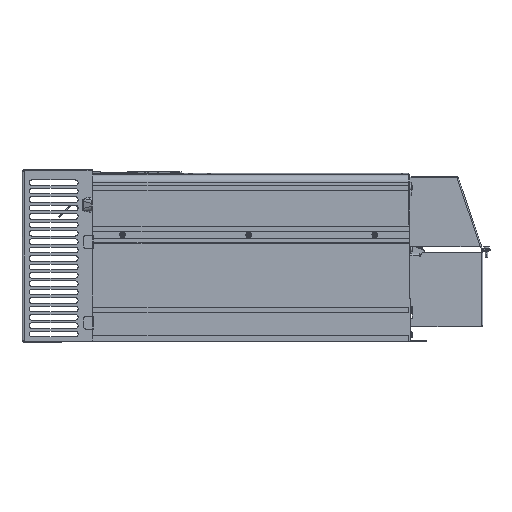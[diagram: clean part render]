
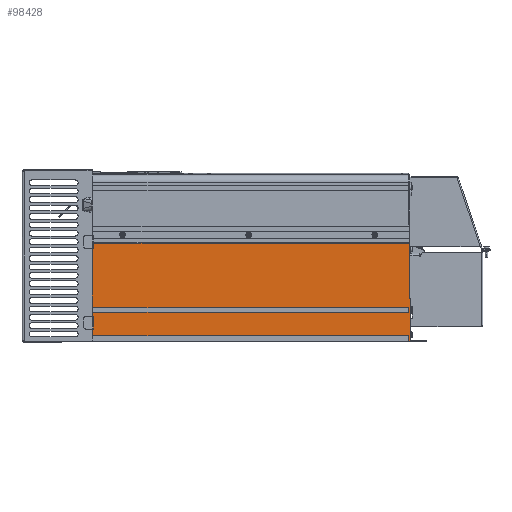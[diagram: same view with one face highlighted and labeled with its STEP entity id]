
A CAD part, left-side view. The second image highlights one B-rep face of the part: STEP entity #98428.
In plain terms, the highlighted planar face has unit normal (-1, 0, 0).
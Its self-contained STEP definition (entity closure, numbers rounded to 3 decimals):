
#6630=DIRECTION('',(0.,-1.,0.));
#6631=VECTOR('',#6630,1.);
#6632=CARTESIAN_POINT('',(-115.,-229.45,62.5));
#6633=LINE('',#6632,#6631);
#6634=DIRECTION('',(0.,0.,-1.));
#6635=VECTOR('',#6634,60.);
#6636=CARTESIAN_POINT('',(-115.,-230.45,62.5));
#6637=LINE('',#6636,#6635);
#6638=DIRECTION('',(0.,-1.,0.));
#6639=VECTOR('',#6638,17.8);
#6640=CARTESIAN_POINT('',(-115.,-230.45,2.5));
#6641=LINE('',#6640,#6639);
#6642=DIRECTION('',(0.,0.,1.));
#6643=VECTOR('',#6642,2.5);
#6644=CARTESIAN_POINT('',(-115.,-248.25,0.));
#6645=LINE('',#6644,#6643);
#6646=DIRECTION('',(0.,0.,1.));
#6647=VECTOR('',#6646,1.);
#6648=CARTESIAN_POINT('',(-115.,211.75,0.));
#6649=LINE('',#6648,#6647);
#6650=DIRECTION('',(0.,1.,0.));
#6651=VECTOR('',#6650,12.);
#6652=CARTESIAN_POINT('',(-115.,211.75,1.));
#6653=LINE('',#6652,#6651);
#6654=DIRECTION('',(0.,0.,1.));
#6655=VECTOR('',#6654,1.);
#6656=CARTESIAN_POINT('',(-115.,223.75,0.));
#6657=LINE('',#6656,#6655);
#6658=DIRECTION('',(0.,-1.,0.));
#6659=VECTOR('',#6658,451.7);
#6660=CARTESIAN_POINT('',(-115.,223.75,1.1));
#6661=LINE('',#6660,#6659);
#6662=DIRECTION('',(0.,-1.,0.));
#6663=VECTOR('',#6662,451.7);
#6664=CARTESIAN_POINT('',(-115.,223.75,9.1));
#6665=LINE('',#6664,#6663);
#6666=DIRECTION('',(0.,0.,-1.));
#6667=VECTOR('',#6666,12.4);
#6668=CARTESIAN_POINT('',(-115.,223.75,21.5));
#6669=LINE('',#6668,#6667);
#6670=DIRECTION('',(0.,0.,-1.));
#6671=VECTOR('',#6670,8.6);
#6672=CARTESIAN_POINT('',(-115.,223.75,42.1));
#6673=LINE('',#6672,#6671);
#6674=DIRECTION('',(0.,-1.,0.));
#6675=VECTOR('',#6674,451.7);
#6676=CARTESIAN_POINT('',(-115.,223.75,42.1));
#6677=LINE('',#6676,#6675);
#6678=DIRECTION('',(0.,-1.,0.));
#6679=VECTOR('',#6678,451.7);
#6680=CARTESIAN_POINT('',(-115.,223.75,48.7));
#6681=LINE('',#6680,#6679);
#6682=DIRECTION('',(0.,0.,-1.));
#6683=VECTOR('',#6682,87.8);
#6684=CARTESIAN_POINT('',(-115.,223.75,136.5));
#6685=LINE('',#6684,#6683);
#7469=DIRECTION('',(0.,0.,-1.));
#7470=VECTOR('',#7469,12.);
#7471=CARTESIAN_POINT('',(-115.,223.75,33.5));
#7472=LINE('',#7471,#7470);
#7869=DIRECTION('',(0.,0.,1.));
#7870=VECTOR('',#7869,1.4);
#7871=CARTESIAN_POINT('',(-115.,223.75,1.1));
#7872=LINE('',#7871,#7870);
#7971=DIRECTION('',(0.,0.,-1.));
#7972=VECTOR('',#7971,4.6);
#7973=CARTESIAN_POINT('',(-115.,223.75,141.1));
#7974=LINE('',#7973,#7972);
#14273=DIRECTION('',(0.,0.,1.));
#14274=VECTOR('',#14273,8.);
#14275=CARTESIAN_POINT('',(-115.,-227.95,1.1));
#14276=LINE('',#14275,#14274);
#14297=DIRECTION('',(0.,0.,1.));
#14298=VECTOR('',#14297,6.6);
#14299=CARTESIAN_POINT('',(-115.,-227.95,42.1));
#14300=LINE('',#14299,#14298);
#16549=DIRECTION('',(0.,0.,-1.));
#16550=VECTOR('',#16549,78.6);
#16551=CARTESIAN_POINT('',(-115.,-229.45,141.1));
#16552=LINE('',#16551,#16550);
#38522=DIRECTION('',(0.,1.,0.));
#38523=VECTOR('',#38522,33.);
#38524=CARTESIAN_POINT('',(-115.,226.75,2.5));
#38525=LINE('',#38524,#38523);
#38866=DIRECTION('',(0.,1.,0.));
#38867=VECTOR('',#38866,453.2);
#38868=CARTESIAN_POINT('',(-115.,-229.45,141.1));
#38869=LINE('',#38868,#38867);
#39154=DIRECTION('',(0.,1.,0.));
#39155=VECTOR('',#39154,3.);
#39156=CARTESIAN_POINT('',(-115.,223.75,2.5));
#39157=LINE('',#39156,#39155);
#60087=DIRECTION('',(0.,0.,1.));
#60088=VECTOR('',#60087,2.5);
#60089=CARTESIAN_POINT('',(-115.,259.75,0.));
#60090=LINE('',#60089,#60088);
#60147=DIRECTION('',(0.,-1.,0.));
#60148=VECTOR('',#60147,36.);
#60149=CARTESIAN_POINT('',(-115.,259.75,0.));
#60150=LINE('',#60149,#60148);
#60191=DIRECTION('',(0.,-1.,0.));
#60192=VECTOR('',#60191,460.);
#60193=CARTESIAN_POINT('',(-115.,211.75,0.));
#60194=LINE('',#60193,#60192);
#77143=CARTESIAN_POINT('',(-115.,223.75,136.5));
#77144=VERTEX_POINT('',#77143);
#77215=CARTESIAN_POINT('',(-115.,223.75,21.5));
#77217=VERTEX_POINT('',#77215);
#77219=CARTESIAN_POINT('',(-115.,223.75,33.5));
#77221=VERTEX_POINT('',#77219);
#78902=CARTESIAN_POINT('',(-115.,223.75,9.1));
#78903=VERTEX_POINT('',#78902);
#78908=CARTESIAN_POINT('',(-115.,223.75,141.1));
#78909=VERTEX_POINT('',#78908);
#78958=CARTESIAN_POINT('',(-115.,259.75,0.));
#78960=VERTEX_POINT('',#78958);
#78968=CARTESIAN_POINT('',(-115.,259.75,2.5));
#78970=VERTEX_POINT('',#78968);
#78976=CARTESIAN_POINT('',(-115.,226.75,2.5));
#78977=VERTEX_POINT('',#78976);
#78982=CARTESIAN_POINT('',(-115.,223.75,1.1));
#78983=CARTESIAN_POINT('',(-115.,223.75,2.5));
#78984=VERTEX_POINT('',#78982);
#78985=VERTEX_POINT('',#78983);
#79014=CARTESIAN_POINT('',(-115.,-227.95,1.1));
#79015=CARTESIAN_POINT('',(-115.,-227.95,9.1));
#79016=VERTEX_POINT('',#79014);
#79017=VERTEX_POINT('',#79015);
#79054=CARTESIAN_POINT('',(-115.,-248.25,2.5));
#79056=VERTEX_POINT('',#79054);
#79060=CARTESIAN_POINT('',(-115.,-248.25,0.));
#79061=VERTEX_POINT('',#79060);
#79070=CARTESIAN_POINT('',(-115.,-230.45,2.5));
#79071=VERTEX_POINT('',#79070);
#79118=CARTESIAN_POINT('',(-115.,-230.45,62.5));
#79119=VERTEX_POINT('',#79118);
#80316=CARTESIAN_POINT('',(-115.,223.75,48.7));
#80317=VERTEX_POINT('',#80316);
#80322=CARTESIAN_POINT('',(-115.,223.75,42.1));
#80323=VERTEX_POINT('',#80322);
#80332=CARTESIAN_POINT('',(-115.,-227.95,42.1));
#80333=CARTESIAN_POINT('',(-115.,-227.95,48.7));
#80334=VERTEX_POINT('',#80332);
#80335=VERTEX_POINT('',#80333);
#81936=CARTESIAN_POINT('',(-115.,211.75,1.));
#81937=CARTESIAN_POINT('',(-115.,223.75,1.));
#81938=VERTEX_POINT('',#81936);
#81939=VERTEX_POINT('',#81937);
#81940=CARTESIAN_POINT('',(-115.,211.75,0.));
#81941=VERTEX_POINT('',#81940);
#81942=CARTESIAN_POINT('',(-115.,223.75,0.));
#81943=VERTEX_POINT('',#81942);
#87306=CARTESIAN_POINT('',(-115.,-229.45,141.1));
#87307=VERTEX_POINT('',#87306);
#87374=CARTESIAN_POINT('',(-115.,-229.45,62.5));
#87376=VERTEX_POINT('',#87374);
#98369=CARTESIAN_POINT('',(-115.,223.75,227.));
#98370=DIRECTION('',(-1.,0.,0.));
#98371=DIRECTION('',(0.,0.,-1.));
#98372=AXIS2_PLACEMENT_3D('',#98369,#98370,#98371);
#98373=PLANE('',#98372);
#98375=ORIENTED_EDGE('',*,*,#98374,.F.);
#98377=ORIENTED_EDGE('',*,*,#98376,.T.);
#98379=ORIENTED_EDGE('',*,*,#98378,.T.);
#98381=ORIENTED_EDGE('',*,*,#98380,.T.);
#98383=ORIENTED_EDGE('',*,*,#98382,.T.);
#98385=ORIENTED_EDGE('',*,*,#98384,.F.);
#98387=ORIENTED_EDGE('',*,*,#98386,.F.);
#98389=ORIENTED_EDGE('',*,*,#98388,.T.);
#98391=ORIENTED_EDGE('',*,*,#98390,.T.);
#98393=ORIENTED_EDGE('',*,*,#98392,.F.);
#98395=ORIENTED_EDGE('',*,*,#98394,.F.);
#98397=ORIENTED_EDGE('',*,*,#98396,.T.);
#98399=ORIENTED_EDGE('',*,*,#98398,.F.);
#98401=ORIENTED_EDGE('',*,*,#98400,.F.);
#98403=ORIENTED_EDGE('',*,*,#98402,.F.);
#98405=ORIENTED_EDGE('',*,*,#98404,.T.);
#98407=ORIENTED_EDGE('',*,*,#98406,.T.);
#98409=ORIENTED_EDGE('',*,*,#98408,.F.);
#98411=ORIENTED_EDGE('',*,*,#98410,.F.);
#98413=ORIENTED_EDGE('',*,*,#98412,.F.);
#98415=ORIENTED_EDGE('',*,*,#98414,.F.);
#98417=ORIENTED_EDGE('',*,*,#98416,.T.);
#98419=ORIENTED_EDGE('',*,*,#98418,.T.);
#98421=ORIENTED_EDGE('',*,*,#98420,.F.);
#98423=ORIENTED_EDGE('',*,*,#98422,.F.);
#98425=ORIENTED_EDGE('',*,*,#98424,.F.);
#98426=EDGE_LOOP('',(#98375,#98377,#98379,#98381,#98383,#98385,#98387,#98389,
#98391,#98393,#98395,#98397,#98399,#98401,#98403,#98405,#98407,#98409,#98411,
#98413,#98415,#98417,#98419,#98421,#98423,#98425));
#98427=FACE_OUTER_BOUND('',#98426,.F.);
#98428=ADVANCED_FACE('',(#98427),#98373,.T.);
#98374=EDGE_CURVE('',#87307,#78909,#38869,.T.);
#98376=EDGE_CURVE('',#87307,#87376,#16552,.T.);
#98378=EDGE_CURVE('',#87376,#79119,#6633,.T.);
#98380=EDGE_CURVE('',#79119,#79071,#6637,.T.);
#98382=EDGE_CURVE('',#79071,#79056,#6641,.T.);
#98384=EDGE_CURVE('',#79061,#79056,#6645,.T.);
#98386=EDGE_CURVE('',#81941,#79061,#60194,.T.);
#98388=EDGE_CURVE('',#81941,#81938,#6649,.T.);
#98390=EDGE_CURVE('',#81938,#81939,#6653,.T.);
#98392=EDGE_CURVE('',#81943,#81939,#6657,.T.);
#98394=EDGE_CURVE('',#78960,#81943,#60150,.T.);
#98396=EDGE_CURVE('',#78960,#78970,#60090,.T.);
#98398=EDGE_CURVE('',#78977,#78970,#38525,.T.);
#98400=EDGE_CURVE('',#78985,#78977,#39157,.T.);
#98402=EDGE_CURVE('',#78984,#78985,#7872,.T.);
#98404=EDGE_CURVE('',#78984,#79016,#6661,.T.);
#98406=EDGE_CURVE('',#79016,#79017,#14276,.T.);
#98408=EDGE_CURVE('',#78903,#79017,#6665,.T.);
#98410=EDGE_CURVE('',#77217,#78903,#6669,.T.);
#98412=EDGE_CURVE('',#77221,#77217,#7472,.T.);
#98414=EDGE_CURVE('',#80323,#77221,#6673,.T.);
#98416=EDGE_CURVE('',#80323,#80334,#6677,.T.);
#98418=EDGE_CURVE('',#80334,#80335,#14300,.T.);
#98420=EDGE_CURVE('',#80317,#80335,#6681,.T.);
#98422=EDGE_CURVE('',#77144,#80317,#6685,.T.);
#98424=EDGE_CURVE('',#78909,#77144,#7974,.T.);
